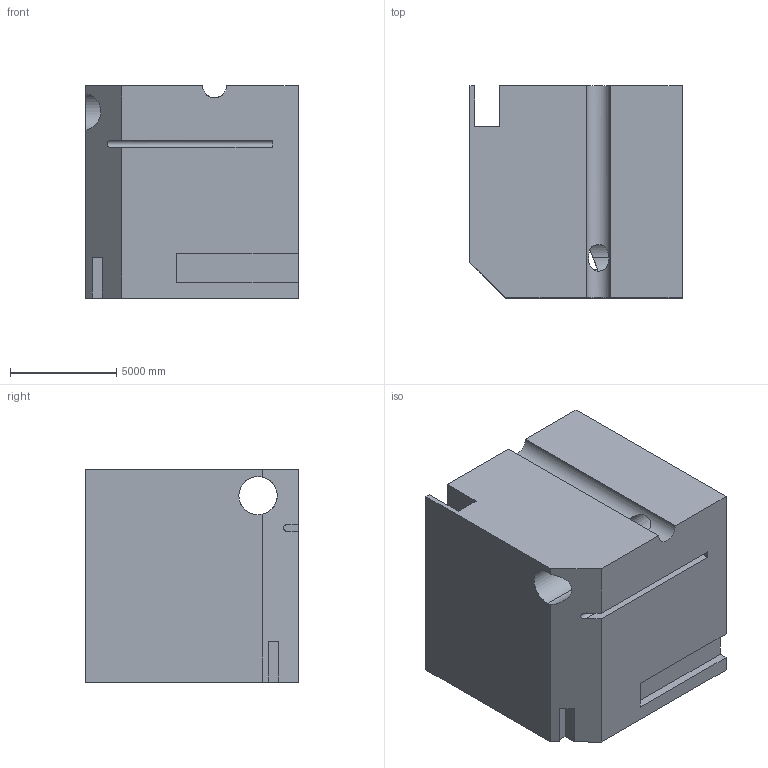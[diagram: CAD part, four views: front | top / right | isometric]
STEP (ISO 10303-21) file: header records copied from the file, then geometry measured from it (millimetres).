
FILE_DESCRIPTION (( 'STEP AP203' ), '1' );
FILE_NAME ('87.STEP', '2022-09-02T14:08:44', ( 'user' ), ( '' ), 'SwSTEP 2.0', 'SolidWorks 2021', '' );
FILE_SCHEMA (( 'CONFIG_CONTROL_DESIGN' ));
Length unit declared in the file: centimetre
Products named in the file (1): 87
Bounding box: 10000 x 10000 x 10000 mm (x, y, z)
Volume: 901340620046.5 mm3; surface area: 764580987.2 mm2
Topology: 1 solids, 1 shells, 39 faces, 120 edges, 80 vertices
Faces by surface type: plane 35, cylinder 4
Entity records: 1677 total; most frequent: CARTESIAN_POINT 531, ORIENTED_EDGE 240, DIRECTION 199, EDGE_CURVE 120, VECTOR 103, LINE 103, VERTEX_POINT 80, AXIS2_PLACEMENT_3D 48
